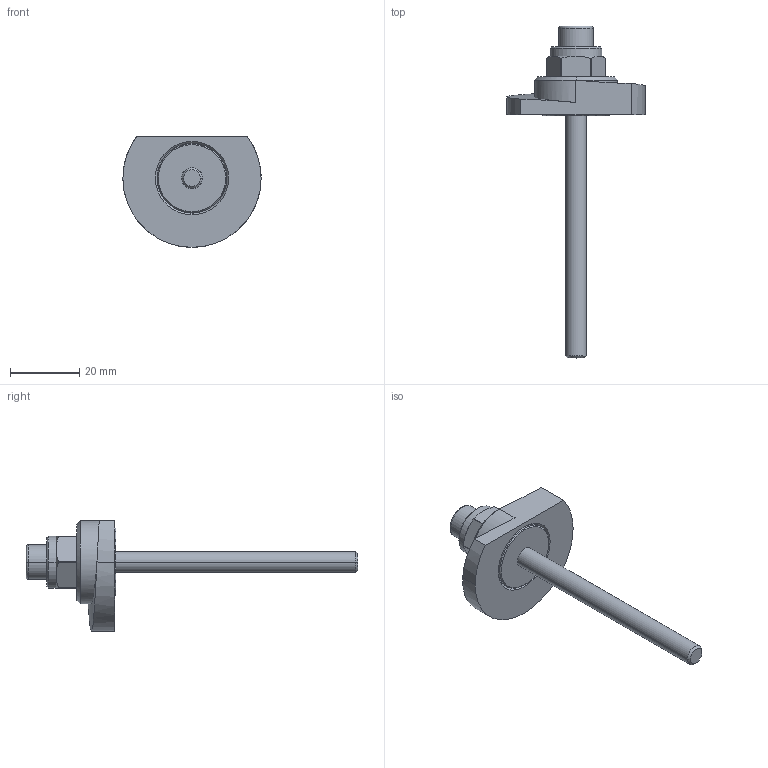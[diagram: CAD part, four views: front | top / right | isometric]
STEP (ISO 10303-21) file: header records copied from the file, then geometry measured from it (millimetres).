
FILE_DESCRIPTION (( 'STEP AP214' ), '1' );
FILE_NAME ('918.1-40-SKS-L-70.step', '2024-05-15T13:00:59', ( '' ), ( '' ), 'SwSTEP 2.0', 'SolidWorks 2022', '' );
FILE_SCHEMA (( 'AUTOMOTIVE_DESIGN' ));
Length unit declared in the file: millimetre
Products named in the file (1): 918.1-40-SKS-L-70
Bounding box: 40 x 96 x 32 mm (x, y, z)
Volume: 12929.2 mm3; surface area: 7527.9 mm2
Topology: 1 solids, 2 shells, 80 faces, 179 edges, 112 vertices
Faces by surface type: cylinder 27, plane 26, cone 22, bspline 3, torus 2
Entity records: 2599 total; most frequent: CARTESIAN_POINT 777, DIRECTION 390, ORIENTED_EDGE 358, EDGE_CURVE 179, AXIS2_PLACEMENT_3D 157, VERTEX_POINT 112, EDGE_LOOP 91, FACE_OUTER_BOUND 80
